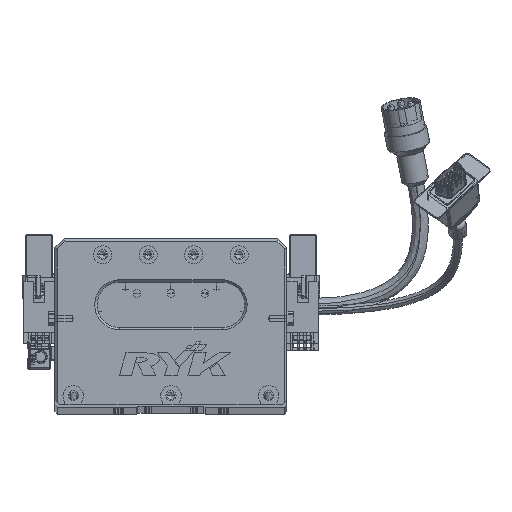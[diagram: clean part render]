
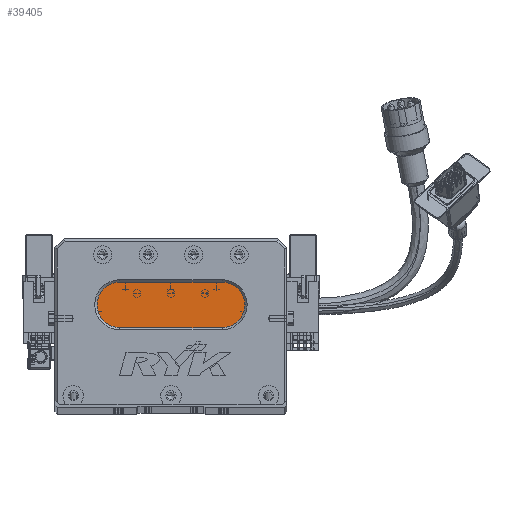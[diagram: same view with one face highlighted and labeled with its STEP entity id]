
A CAD part, top view. The second image highlights one B-rep face of the part: STEP entity #39405.
In plain terms, the highlighted planar face has unit normal (0, 0, 1) as drawn and (0, 0, -1) by its records, which use the part's own axes.
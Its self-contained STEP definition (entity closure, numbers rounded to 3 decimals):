
#62 = ORIENTED_EDGE ( 'NONE', *, *, #75715, .T. ) ;
#1918 = LINE ( 'NONE', #7700, #59234 ) ;
#2367 = EDGE_CURVE ( 'NONE', #41755, #28229, #59353, .T. ) ;
#7193 = DIRECTION ( 'NONE',  ( 1., 0., 0. ) ) ;
#7539 = AXIS2_PLACEMENT_3D ( 'NONE', #57595, #15815, #57833 ) ;
#7569 = EDGE_CURVE ( 'NONE', #30418, #39876, #70993, .T. ) ;
#7700 = CARTESIAN_POINT ( 'NONE',  ( 73.5, 54., 13. ) ) ;
#8503 = DIRECTION ( 'NONE',  ( -1., 0., 0. ) ) ;
#8982 = DIRECTION ( 'NONE',  ( -1., 0., 0. ) ) ;
#13376 = CARTESIAN_POINT ( 'NONE',  ( 73.5, 34., 13. ) ) ;
#14246 = CARTESIAN_POINT ( 'NONE',  ( 28.5, 44., 13. ) ) ;
#15815 = DIRECTION ( 'NONE',  ( 0., 0., -1. ) ) ;
#22765 = CARTESIAN_POINT ( 'NONE',  ( 28.5, 54., 13. ) ) ;
#24693 = ORIENTED_EDGE ( 'NONE', *, *, #49936, .T. ) ;
#26699 = ORIENTED_EDGE ( 'NONE', *, *, #46784, .T. ) ;
#27197 = CIRCLE ( 'NONE', #57960, 10. ) ;
#28229 = VERTEX_POINT ( 'NONE', #13376 ) ;
#28521 = DIRECTION ( 'NONE',  ( 0., 0., -1. ) ) ;
#29915 = DIRECTION ( 'NONE',  ( 0., 0., -1. ) ) ;
#30418 = VERTEX_POINT ( 'NONE', #74726 ) ;
#33500 = VECTOR ( 'NONE', #8982, 1000. ) ;
#36040 = VERTEX_POINT ( 'NONE', #60267 ) ;
#39405 = ADVANCED_FACE ( 'NONE', ( #52960 ), #54378, .T. ) ;
#39474 = EDGE_LOOP ( 'NONE', ( #71837, #24693, #62, #73693, #26699 ) ) ;
#39876 = VERTEX_POINT ( 'NONE', #22765 ) ;
#41341 = DIRECTION ( 'NONE',  ( -1., 0., 0. ) ) ;
#41755 = VERTEX_POINT ( 'NONE', #64607 ) ;
#41874 = LINE ( 'NONE', #44601, #33500 ) ;
#44601 = CARTESIAN_POINT ( 'NONE',  ( 73.5, 34., 13. ) ) ;
#46366 = CARTESIAN_POINT ( 'NONE',  ( 28.5, 44., 13. ) ) ;
#46784 = EDGE_CURVE ( 'NONE', #39876, #41755, #1918, .T. ) ;
#48835 = DIRECTION ( 'NONE',  ( -1., 0., 0. ) ) ;
#49085 = CARTESIAN_POINT ( 'NONE',  ( 73.5, 44., 13. ) ) ;
#49936 = EDGE_CURVE ( 'NONE', #28229, #36040, #41874, .T. ) ;
#52960 = FACE_OUTER_BOUND ( 'NONE', #39474, .T. ) ;
#53736 = AXIS2_PLACEMENT_3D ( 'NONE', #49085, #29915, #48835 ) ;
#54378 = PLANE ( 'NONE',  #53736 ) ;
#55148 = AXIS2_PLACEMENT_3D ( 'NONE', #46366, #28521, #41341 ) ;
#57595 = CARTESIAN_POINT ( 'NONE',  ( 73.5, 44., 13. ) ) ;
#57833 = DIRECTION ( 'NONE',  ( -1., 0., 0. ) ) ;
#57960 = AXIS2_PLACEMENT_3D ( 'NONE', #14246, #74886, #8503 ) ;
#59234 = VECTOR ( 'NONE', #7193, 1000. ) ;
#59353 = CIRCLE ( 'NONE', #7539, 10. ) ;
#60267 = CARTESIAN_POINT ( 'NONE',  ( 28.5, 34., 13. ) ) ;
#64607 = CARTESIAN_POINT ( 'NONE',  ( 73.5, 54., 13. ) ) ;
#70993 = CIRCLE ( 'NONE', #55148, 10. ) ;
#71837 = ORIENTED_EDGE ( 'NONE', *, *, #2367, .T. ) ;
#73693 = ORIENTED_EDGE ( 'NONE', *, *, #7569, .T. ) ;
#74726 = CARTESIAN_POINT ( 'NONE',  ( 18.5, 44., 13. ) ) ;
#74886 = DIRECTION ( 'NONE',  ( 0., 0., -1. ) ) ;
#75715 = EDGE_CURVE ( 'NONE', #36040, #30418, #27197, .T. ) ;
